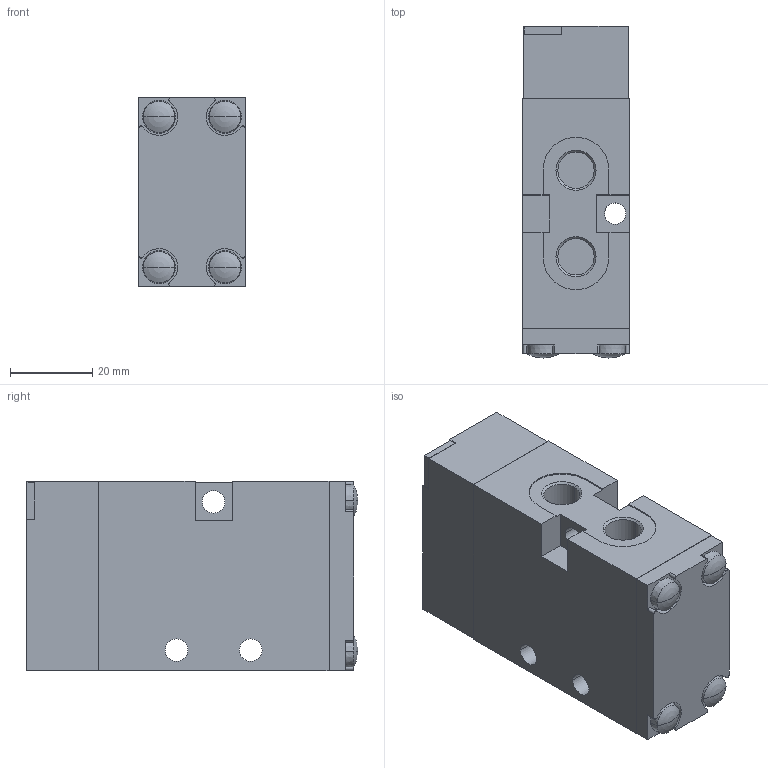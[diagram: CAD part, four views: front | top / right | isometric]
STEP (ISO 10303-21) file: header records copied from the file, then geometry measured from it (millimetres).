
FILE_DESCRIPTION((''),'2;1');
FILE_NAME('5710300100','2015-03-25T',('mla1hc'),(''),'PRO/ENGINEER BY PARAMETRIC TECHNOLOGY CORPORATION, 2011490','PRO/ENGINEER BY PARAMETRIC TECHNOLOGY CORPORATION, 2011490','');
FILE_SCHEMA(('AUTOMOTIVE_DESIGN_CC2 { 1 2 10303 214 -1 1 5 2 }'));
Length unit declared in the file: millimetre
Products named in the file (1): 5710300100
Bounding box: 26 x 80.5 x 46 mm (x, y, z)
Volume: 87153.2 mm3; surface area: 17311.7 mm2
Topology: 1 solids, 1 shells, 148 faces, 370 edges, 236 vertices
Faces by surface type: plane 68, cylinder 52, cone 20, sphere 8
Entity records: 4403 total; most frequent: DIRECTION 798, CARTESIAN_POINT 746, ORIENTED_EDGE 724, EDGE_CURVE 362, AXIS2_PLACEMENT_3D 288, VERTEX_POINT 236, VECTOR 222, LINE 222
